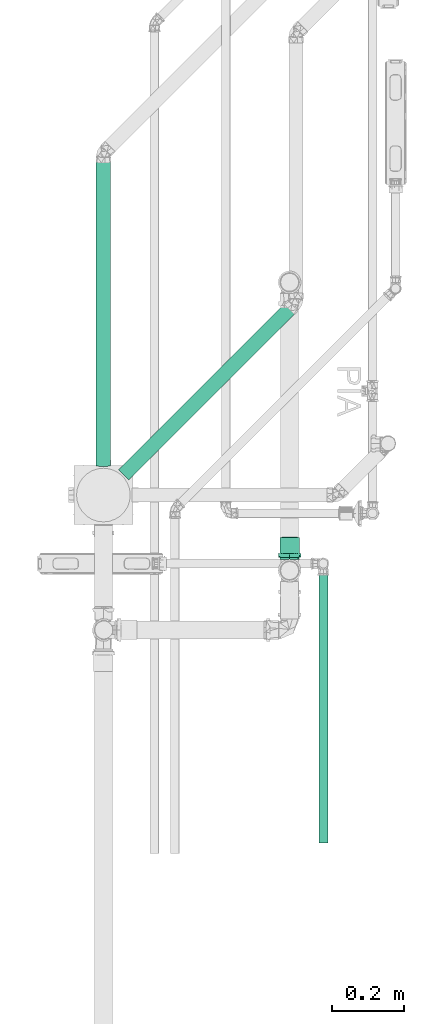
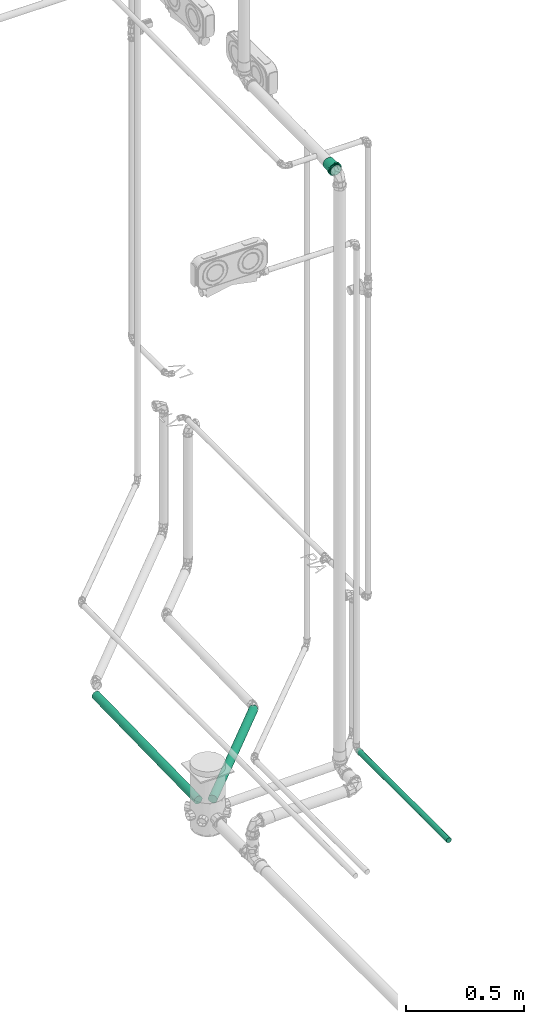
# One storey, part 53 of 589: 3 flow segments, 1 flow fitting.
"""IFC2X3 building model written with IfcOpenShell, lengths in millimetres."""

from ifc_helpers import new_model, entity, si_unit, converted_unit, derived_unit, direction, frame, frame_2d, origin, place, context, subcontext, project, spatial, circle, extrude, faceted_brep, source, transform, mapped, material, type_object, type_shapes, element, save


model = new_model("IFC2X3")

# Units and contexts
model_context = context("Model", 3, precision=0.01, world=origin(), true_north=direction((6.123031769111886e-17, 1.0)))
body_context = subcontext(model_context, "Body", "Model", "MODEL_VIEW")
ifc_project = project(units=[si_unit("LENGTHUNIT", "METRE", prefix="MILLI"), si_unit("AREAUNIT", "SQUARE_METRE"), si_unit("VOLUMEUNIT", "CUBIC_METRE"), converted_unit("PLANEANGLEUNIT", "DEGREE", entity("IfcRatioMeasure", 0.017453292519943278), si_unit("PLANEANGLEUNIT", "RADIAN"), dimensions=[0, 0, 0, 0, 0, 0, 0]), si_unit("MASSUNIT", "GRAM", prefix="KILO"), derived_unit("MASSDENSITYUNIT", [(si_unit("MASSUNIT", "GRAM", prefix="KILO"), 1), (si_unit("LENGTHUNIT", "METRE"), -3)]), derived_unit("IONCONCENTRATIONUNIT", [(si_unit("MASSUNIT", "GRAM", prefix="KILO"), 1), (si_unit("LENGTHUNIT", "METRE"), -3)]), derived_unit("MOMENTOFINERTIAUNIT", [(si_unit("LENGTHUNIT", "METRE"), 4)]), si_unit("TIMEUNIT", "SECOND"), si_unit("FREQUENCYUNIT", "HERTZ"), si_unit("THERMODYNAMICTEMPERATUREUNIT", "DEGREE_CELSIUS"), derived_unit("THERMALTRANSMITTANCEUNIT", [(si_unit("MASSUNIT", "GRAM", prefix="KILO"), 1), (si_unit("THERMODYNAMICTEMPERATUREUNIT", "KELVIN"), -1), (si_unit("TIMEUNIT", "SECOND"), -3)]), derived_unit("THERMALCONDUCTANCEUNIT", [(si_unit("MASSUNIT", "GRAM", prefix="KILO"), 1), (si_unit("THERMODYNAMICTEMPERATUREUNIT", "KELVIN"), -1), (si_unit("TIMEUNIT", "SECOND"), -3), (si_unit("LENGTHUNIT", "METRE"), 1)]), derived_unit("VOLUMETRICFLOWRATEUNIT", [(si_unit("LENGTHUNIT", "METRE"), 3), (si_unit("TIMEUNIT", "SECOND"), -1)]), derived_unit("MASSFLOWRATEUNIT", [(si_unit("MASSUNIT", "GRAM", prefix="KILO"), 1), (si_unit("TIMEUNIT", "SECOND"), -1)]), derived_unit("ROTATIONALFREQUENCYUNIT", [(si_unit("TIMEUNIT", "SECOND"), -1)]), si_unit("ELECTRICCURRENTUNIT", "AMPERE"), si_unit("ELECTRICVOLTAGEUNIT", "VOLT"), si_unit("POWERUNIT", "WATT"), si_unit("FORCEUNIT", "NEWTON", prefix="KILO"), si_unit("ILLUMINANCEUNIT", "LUX"), si_unit("LUMINOUSFLUXUNIT", "LUMEN"), si_unit("LUMINOUSINTENSITYUNIT", "CANDELA"), derived_unit("USERDEFINED", [(si_unit("MASSUNIT", "GRAM", prefix="KILO"), -1), (si_unit("LENGTHUNIT", "METRE"), -2), (si_unit("TIMEUNIT", "SECOND"), 3), (si_unit("LUMINOUSFLUXUNIT", "LUMEN"), 1)]), derived_unit("USERDEFINED", [(si_unit("MASSUNIT", "GRAM", prefix="KILO"), 1), (si_unit("TIMEUNIT", "SECOND"), -3), (si_unit("LENGTHUNIT", "METRE"), 3), (si_unit("ELECTRICCURRENTUNIT", "AMPERE"), -2)]), derived_unit("SOUNDPOWERUNIT", [(si_unit("MASSUNIT", "GRAM", prefix="KILO"), 1), (si_unit("TIMEUNIT", "SECOND"), -3), (si_unit("LENGTHUNIT", "METRE"), 2)]), derived_unit("SOUNDPRESSUREUNIT", [(si_unit("MASSUNIT", "GRAM", prefix="KILO"), 1), (si_unit("LENGTHUNIT", "METRE"), -1), (si_unit("TIMEUNIT", "SECOND"), -2)]), derived_unit("LINEARVELOCITYUNIT", [(si_unit("LENGTHUNIT", "METRE"), 1), (si_unit("TIMEUNIT", "SECOND"), -1)]), si_unit("PRESSUREUNIT", "PASCAL"), derived_unit("USERDEFINED", [(si_unit("MASSUNIT", "GRAM", prefix="KILO"), 1), (si_unit("LENGTHUNIT", "METRE"), -2), (si_unit("TIMEUNIT", "SECOND"), -2)]), derived_unit("LINEARFORCEUNIT", [(si_unit("MASSUNIT", "GRAM", prefix="KILO"), 1), (si_unit("TIMEUNIT", "SECOND"), -2)]), derived_unit("PLANARFORCEUNIT", [(si_unit("MASSUNIT", "GRAM", prefix="KILO"), 1), (si_unit("LENGTHUNIT", "METRE"), -1), (si_unit("TIMEUNIT", "SECOND"), -2)]), derived_unit("SPECIFICHEATCAPACITYUNIT", [(si_unit("THERMODYNAMICTEMPERATUREUNIT", "KELVIN"), -1), (si_unit("LENGTHUNIT", "METRE"), 2), (si_unit("TIMEUNIT", "SECOND"), -2)]), derived_unit("HEATINGVALUEUNIT", [(si_unit("LENGTHUNIT", "METRE"), 2), (si_unit("TIMEUNIT", "SECOND"), -2)]), derived_unit("VAPORPERMEABILITYUNIT", [(si_unit("LENGTHUNIT", "METRE"), -1), (si_unit("TIMEUNIT", "SECOND"), 1)]), derived_unit("DYNAMICVISCOSITYUNIT", [(si_unit("MASSUNIT", "GRAM", prefix="KILO"), 1), (si_unit("TIMEUNIT", "SECOND"), -1), (si_unit("LENGTHUNIT", "METRE"), -1)]), derived_unit("THERMALEXPANSIONCOEFFICIENTUNIT", [(si_unit("THERMODYNAMICTEMPERATUREUNIT", "KELVIN"), -1)]), derived_unit("MODULUSOFELASTICITYUNIT", [(si_unit("MASSUNIT", "GRAM", prefix="KILO"), 1), (si_unit("LENGTHUNIT", "METRE"), -1), (si_unit("TIMEUNIT", "SECOND"), -2)]), derived_unit("ISOTHERMALMOISTURECAPACITYUNIT", [(si_unit("LENGTHUNIT", "METRE"), 3), (si_unit("MASSUNIT", "GRAM", prefix="KILO"), -1)]), derived_unit("MOISTUREDIFFUSIVITYUNIT", [(si_unit("TIMEUNIT", "SECOND"), -1), (si_unit("LENGTHUNIT", "METRE"), 2)])], contexts=[model_context])

# Site, building, storey
site_placement = place(None, origin())
site = spatial("IfcSite", under=ifc_project, at=site_placement, Name="Default", CompositionType="ELEMENT")
building_placement = place(site_placement, origin())
building = spatial("IfcBuilding", under=site, at=building_placement, CompositionType="ELEMENT")
storey_placement = place(building_placement, frame((0.0, 0.0, 100.0)))
storey = spatial("IfcBuildingStorey", under=building, at=storey_placement, Name="TÉRREO", CompositionType="ELEMENT", Elevation=100.0)

# Flow segments
pipe_segment_type_1 = type_object("IfcPipeSegmentType", Name="Tipos de tubos:PVC Esgoto Série Normal", PredefinedType="NOTDEFINED")
flow_segment_1_placement = place(storey_placement, origin())
element("IfcFlowSegment", 1, at=flow_segment_1_placement, inside=storey, type_object=pipe_segment_type_1, Name="Tipos de tubos:PVC Esgoto Série Normal", ObjectType="Tipos de tubos:PVC Esgoto Série Normal", context=body_context, shape_type="SweptSolid", body=[
    extrude(circle(Radius=20.0, at=frame_2d((0.0, -3.383283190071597e-14), x_axis=(1.0, 0.0))), frame((-353.827989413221, -7640.112350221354, -252.9347498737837), z_axis=(0.7069654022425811, 0.7069654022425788, 0.019996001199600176), x_axis=(0.7071067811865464, -0.7071067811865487, 0.0)), (0.0, 0.0, 1.0), 669.0448221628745),
])
flow_segment_2_placement = place(storey_placement, origin())
element("IfcFlowSegment", 2, at=flow_segment_2_placement, inside=storey, type_object=pipe_segment_type_1, Name="Tipos de tubos:PVC Esgoto Série Normal", ObjectType="Tipos de tubos:PVC Esgoto Série Normal", context=body_context, shape_type="SweptSolid", body=[
    extrude(circle(Radius=20.0, at=frame_2d((0.0, -3.383283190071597e-14), x_axis=(1.0, 0.0))), frame((-410.3258212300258, -7615.843921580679, -252.93474987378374), z_axis=(0.0, 0.999800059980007, 0.01999600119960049), x_axis=(1.0, 0.0, 0.0)), (0.0, 0.0, 1.0), 862.6973783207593),
])
pipe_segment_type_2 = type_object("IfcPipeSegmentType", Name="Tipos de tubos:PVC Marrom Soldável", PredefinedType="NOTDEFINED")
flow_segment_3_placement = place(storey_placement, origin())
element("IfcFlowSegment", 3, at=flow_segment_3_placement, inside=storey, type_object=pipe_segment_type_2, Name="Tipos de tubos:PVC Marrom Soldável", ObjectType="Tipos de tubos:PVC Marrom Soldável", context=body_context, shape_type="SweptSolid", body=[
    extrude(circle(Radius=12.5, at=frame_2d((-4.222259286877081e-20, -9.417920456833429e-08), x_axis=(1.0, 0.0))), frame((203.72928595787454, -8667.861356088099, -37.35824808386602), z_axis=(-1.8287699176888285e-07, 1.0, 0.0), x_axis=(-1.0, -1.8287699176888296e-07, 0.0)), (0.0, 0.0, 1.0), 764.6001103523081),
])

# Flow fitting
ifc_material = material(Name="PVC Série Normal")
pipe_fitting_type = type_object("IfcPipeFittingType", Name="PVC Esgoto_Luva Simples para Conexão_Rodrigo MEP:Standard", PredefinedType="NOTDEFINED", material=ifc_material)
shared_shape = source(origin(), body_context, "Body", "Brep", [
    faceted_brep([(16.599999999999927, 15.900000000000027, -27.53960784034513), (16.599999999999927, 22.485995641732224, -22.485995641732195), (16.599999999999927, 13.599999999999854, -23.555890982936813), (16.599999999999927, 7.039878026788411, -26.273182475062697), (16.599999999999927, 8.2304456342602, -30.71644127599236), (16.599999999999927, 19.233304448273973, -19.233304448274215), (16.599999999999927, 27.539607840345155, -15.899999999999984), (16.599999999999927, 23.55589098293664, -13.600000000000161), (16.599999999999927, 26.273182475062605, -7.03987802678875), (16.599999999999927, 30.716441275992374, -8.230445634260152), (16.599999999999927, 27.2, 0.0), (16.599999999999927, 31.8, 0.0), (16.599999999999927, 26.273182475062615, 7.0398780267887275), (16.599999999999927, 30.71644127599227, 8.23044563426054), (16.599999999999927, 23.555890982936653, 13.60000000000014), (16.599999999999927, 27.539607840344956, 15.900000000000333), (16.599999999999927, 19.233304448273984, 19.2333044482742), (16.599999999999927, 22.485995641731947, 22.48599564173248), (16.599999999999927, 13.599999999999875, 23.555890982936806), (16.599999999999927, 15.899999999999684, 27.53960784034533), (16.599999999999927, 7.039878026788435, 26.27318247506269), (16.599999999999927, 8.230445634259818, 30.716441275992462), (16.599999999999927, 0.0, 27.2), (16.599999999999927, 0.0, 31.8), (16.599999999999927, -7.039878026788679, 26.273182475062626), (16.599999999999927, -8.230445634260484, 30.716441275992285), (16.599999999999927, -13.600000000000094, 23.555890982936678), (16.599999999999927, -15.900000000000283, 27.53960784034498), (16.599999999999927, -19.23330444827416, 19.233304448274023), (16.599999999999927, -22.485995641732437, 22.48599564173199), (16.599999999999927, -23.55589098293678, 13.59999999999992), (16.599999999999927, -27.539607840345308, 15.899999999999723), (16.599999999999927, -30.71644127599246, 8.230445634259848), (16.599999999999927, -26.273182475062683, 7.039878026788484), (16.599999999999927, -31.8, 0.0), (16.599999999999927, -27.2, 0.0), (16.599999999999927, -30.71644127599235, -8.23044563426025), (16.599999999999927, -26.273182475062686, -7.03987802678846), (16.599999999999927, -27.53960784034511, -15.90000000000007), (16.599999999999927, -23.55589098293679, -13.599999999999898), (16.599999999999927, -22.485995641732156, -22.485995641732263), (16.599999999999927, -19.233304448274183, -19.233304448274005), (16.599999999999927, -15.899999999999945, -27.53960784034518), (16.599999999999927, -13.600000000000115, -23.555890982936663), (16.599999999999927, -8.230445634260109, -30.716441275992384), (16.599999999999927, -7.039878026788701, -26.273182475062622), (16.599999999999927, 0.0, -31.8), (16.599999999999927, 0.0, -27.2), (6.500000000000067, -10.708108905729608, 29.429219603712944), (6.500000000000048, -24.359073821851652, 20.44200387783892), (6.500000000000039, -27.120498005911, 15.6595386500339), (6.50000000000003, -29.881922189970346, 10.877073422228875), (6.500000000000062, -15.89769721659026, 27.540937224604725), (6.500000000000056, -20.128385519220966, 23.991470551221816), (6.50000000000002, -30.840961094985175, 5.438536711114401), (6.5000000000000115, -31.8, 0.0), (6.50000000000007, -5.518520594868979, 31.317501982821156), (6.500000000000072, 5.526376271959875, 31.316116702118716), (6.50000000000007, 0.00392783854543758, 31.316809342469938), (6.500000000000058, 20.134403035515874, 23.986420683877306), (6.500000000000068, 10.715490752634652, 29.42653259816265), (6.500000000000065, 15.904605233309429, 27.536948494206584), (6.500000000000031, 29.8846497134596, 10.869577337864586), (6.500000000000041, 27.12442527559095, 15.652735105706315), (6.5000000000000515, 24.364200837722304, 20.435892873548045), (6.5000000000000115, 31.8, 0.0), (6.499999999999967, 24.364200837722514, -20.435892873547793), (6.499999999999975, 27.12442527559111, -15.652735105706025), (6.499999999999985, 29.884649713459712, -10.869577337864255), (6.4999999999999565, 15.904605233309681, -27.53694849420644), (6.499999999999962, 20.134403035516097, -23.986420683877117), (6.499999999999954, 10.715490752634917, -29.42653259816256), (6.499999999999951, 5.526376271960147, -31.31611670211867), (6.499999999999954, -5.518520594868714, -31.317501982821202), (6.499999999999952, 0.003927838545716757, -31.316809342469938), (6.499999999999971, -20.128385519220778, -23.99147055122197), (6.499999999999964, -15.897697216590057, -27.54093722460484), (6.499999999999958, -10.70810890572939, -29.42921960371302), (6.499999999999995, -29.881922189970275, -10.877073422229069), (6.499999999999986, -27.12049800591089, -15.659538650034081), (6.499999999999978, -24.359073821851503, -20.442003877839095), (6.500000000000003, -30.840961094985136, -5.438536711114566), (6.499999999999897, -30.696173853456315, -6.259599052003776), (62.0, 13.600000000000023, -23.55589098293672), (62.0, 19.233304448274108, -19.23330444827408), (62.0, 12.499999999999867, -21.650635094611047), (62.0, 6.470476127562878, -24.14814565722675), (62.0, 7.039878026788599, -26.273182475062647), (62.0, 17.677669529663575, -17.677669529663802), (62.0, 23.55589098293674, -13.599999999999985), (62.0, 21.65063509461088, -12.50000000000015), (62.0, 24.148145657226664, -6.470476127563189), (62.0, 26.27318247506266, -7.039878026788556), (62.0, 25.0, 0.0), (62.0, 27.2, 0.0), (62.0, 24.148145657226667, 6.4704761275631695), (62.0, 26.273182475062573, 7.03987802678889), (62.0, 21.650635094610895, 12.500000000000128), (62.0, 23.555890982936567, 13.600000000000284), (62.0, 17.67766952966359, 17.67766952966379), (62.0, 19.233304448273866, 19.233304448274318), (62.0, 12.499999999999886, 21.650635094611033), (62.0, 13.59999999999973, 23.55589098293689), (62.0, 6.4704761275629, 24.14814565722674), (62.0, 7.039878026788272, 26.273182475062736), (62.0, 0.0, 25.0), (62.0, 0.0, 27.2), (62.0, -6.470476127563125, 24.148145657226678), (62.0, -7.039878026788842, 26.273182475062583), (62.0, -12.500000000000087, 21.650635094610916), (62.0, -13.600000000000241, 23.555890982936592), (62.0, -17.677669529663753, 17.677669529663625), (62.0, -19.233304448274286, 19.2333044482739), (62.0, -21.65063509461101, 12.499999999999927), (62.0, -23.555890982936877, 13.599999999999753), (62.0, -26.27318247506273, 7.039878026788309), (62.0, -24.14814565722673, 6.470476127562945), (62.0, -27.2, 0.0), (62.0, -25.0, 0.0), (62.0, -26.27318247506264, -7.0398780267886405), (62.0, -24.148145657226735, -6.470476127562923), (62.0, -23.5558909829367, -13.600000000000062), (62.0, -21.650635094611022, -12.499999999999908), (62.0, -19.233304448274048, -19.233304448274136), (62.0, -17.67766952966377, -17.677669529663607), (62.0, -13.599999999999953, -23.555890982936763), (62.0, -12.500000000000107, -21.650635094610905), (62.0, -7.039878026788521, -26.27318247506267), (62.0, -6.470476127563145, -24.148145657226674), (62.0, 0.0, -27.2), (62.0, 0.0, -25.0), (0.0, 12.499999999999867, -21.650635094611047), (0.0, 19.233304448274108, -19.23330444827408), (0.0, 13.600000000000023, -23.55589098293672), (0.0, 6.470476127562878, -24.14814565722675), (0.0, 17.677669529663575, -17.677669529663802), (0.0, 23.55589098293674, -13.599999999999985), (0.0, 21.65063509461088, -12.50000000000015), (0.0, 24.148145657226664, -6.470476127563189), (0.0, 26.27318247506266, -7.039878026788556), (0.0, 25.0, 0.0), (0.0, 27.2, 0.0), (0.0, 24.148145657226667, 6.4704761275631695), (0.0, 26.273182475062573, 7.03987802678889), (0.0, 21.650635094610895, 12.500000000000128), (0.0, 23.555890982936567, 13.600000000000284), (0.0, 17.67766952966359, 17.67766952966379), (0.0, 19.233304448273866, 19.233304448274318), (0.0, 12.499999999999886, 21.650635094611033), (0.0, 13.59999999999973, 23.55589098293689), (0.0, 6.4704761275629, 24.14814565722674), (0.0, 7.039878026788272, 26.273182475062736), (0.0, 0.0, 25.0), (0.0, 0.0, 27.2), (0.0, -6.470476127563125, 24.148145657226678), (0.0, -7.039878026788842, 26.273182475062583), (0.0, -12.500000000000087, 21.650635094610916), (0.0, -13.600000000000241, 23.555890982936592), (0.0, -17.677669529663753, 17.677669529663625), (0.0, -19.233304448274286, 19.2333044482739), (0.0, -21.65063509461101, 12.499999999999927), (0.0, -23.555890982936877, 13.599999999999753), (0.0, -26.27318247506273, 7.039878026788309), (0.0, -24.14814565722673, 6.470476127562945), (0.0, -27.2, 0.0), (0.0, -25.0, 0.0), (0.0, -26.27318247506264, -7.0398780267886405), (0.0, -24.148145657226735, -6.470476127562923), (0.0, -23.5558909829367, -13.600000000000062), (0.0, -21.650635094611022, -12.499999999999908), (0.0, -19.233304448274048, -19.233304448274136), (0.0, -17.67766952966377, -17.677669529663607), (0.0, -13.599999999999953, -23.555890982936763), (0.0, -12.500000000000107, -21.650635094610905), (0.0, -7.039878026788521, -26.27318247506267), (0.0, -6.470476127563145, -24.148145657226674), (0.0, 0.0, -27.2), (0.0, 0.0, -25.0), (0.0, 7.039878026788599, -26.273182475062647), (5.300000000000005, -26.37968999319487, 4.651830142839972), (5.299999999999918, -26.25584678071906, 5.354122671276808), (5.300000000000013, -25.559379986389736, 9.303660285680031), (5.300000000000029, -20.835434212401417, 17.48498444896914), (5.300000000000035, -17.216732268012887, 20.521006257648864), (5.300000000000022, -23.19740709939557, 13.394322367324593), (5.3000000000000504, -4.720244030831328, 26.787297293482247), (5.300000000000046, -9.15913717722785, 25.172162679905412), (5.299999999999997, -27.2, 0.0), (5.300000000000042, -13.598030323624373, 23.557028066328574), (5.300000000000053, 9.165451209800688, 25.169864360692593), (5.300000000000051, 13.603939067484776, 23.55361632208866), (5.300000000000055, 4.7269633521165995, 26.786112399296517), (5.300000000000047, 17.221879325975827, 20.516686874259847), (5.300000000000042, 20.839819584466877, 17.479757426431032), (5.3000000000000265, 25.56171296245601, 9.297248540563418), (5.299999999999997, 27.2, 0.0), (5.3000000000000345, 23.20076627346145, 13.388502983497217), (5.300000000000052, 0.003359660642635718, 26.786704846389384), (5.299999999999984, 25.56171296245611, -9.29724854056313), (5.299999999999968, 20.839819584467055, -17.47975742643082), (5.2999999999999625, 17.22187932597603, -20.516686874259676), (5.299999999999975, 23.200766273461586, -13.388502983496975), (5.299999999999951, 4.726963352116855, -26.78611239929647), (5.2999999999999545, 9.165451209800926, -25.169864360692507), (5.299999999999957, 13.603939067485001, -23.553616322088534), (5.29999999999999, -26.379689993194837, -4.651830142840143), (5.299999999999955, -9.159137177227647, -25.17216267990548), (5.299999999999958, -13.5980303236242, -23.55702806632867), (5.299999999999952, -4.720244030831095, -26.787297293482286), (5.299999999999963, -17.216732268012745, -20.52100625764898), (5.299999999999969, -20.83543421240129, -17.484984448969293), (5.299999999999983, -25.559379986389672, -9.303660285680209), (5.299999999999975, -23.197407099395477, -13.394322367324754), (5.299999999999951, 0.003359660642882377, -26.78670484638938), (39.0, -25.0, 0.0), (39.0, 25.0, 0.0)], [[[0, 1, 2]], [[0, 2, 3]], [[3, 4, 0]], [[2, 1, 5]], [[6, 5, 1]], [[7, 5, 6]], [[8, 7, 6]], [[8, 6, 9]], [[8, 9, 10]], [[10, 9, 11]], [[12, 10, 11]], [[12, 11, 13]], [[14, 12, 13]], [[14, 13, 15]], [[16, 14, 15]], [[15, 17, 16]], [[17, 18, 16]], [[17, 19, 18]], [[18, 19, 20]], [[21, 20, 19]], [[20, 21, 22]], [[22, 21, 23]], [[22, 23, 24]], [[24, 23, 25]], [[24, 25, 26]], [[27, 26, 25]], [[27, 28, 26]], [[28, 27, 29]], [[30, 28, 29]], [[31, 30, 29]], [[32, 30, 31]], [[33, 30, 32]], [[33, 32, 34]], [[35, 33, 34]], [[36, 35, 34]], [[36, 37, 35]], [[37, 36, 38]], [[39, 37, 38]], [[39, 38, 40]], [[39, 40, 41]], [[40, 42, 41]], [[41, 42, 43]], [[43, 42, 44]], [[44, 45, 43]], [[46, 45, 44]], [[4, 47, 46]], [[46, 47, 45]], [[4, 3, 47]], [[48, 27, 25]], [[31, 29, 49]], [[31, 49, 50, 51]], [[52, 53, 27]], [[32, 51, 54]], [[54, 55, 34]], [[54, 34, 32]], [[25, 56, 48]], [[49, 29, 53]], [[23, 57, 58, 56]], [[59, 19, 17]], [[27, 53, 29]], [[48, 52, 27]], [[31, 51, 32]], [[57, 23, 21]], [[60, 19, 61]], [[15, 62, 63, 64]], [[19, 60, 21]], [[15, 13, 62]], [[17, 64, 59]], [[57, 21, 60]], [[23, 56, 25]], [[15, 64, 17]], [[13, 65, 62]], [[13, 11, 65]], [[59, 61, 19]], [[65, 11, 9]], [[6, 1, 66]], [[6, 66, 67, 68]], [[69, 70, 0]], [[68, 65, 9]], [[71, 69, 0]], [[71, 0, 4]], [[4, 72, 71]], [[66, 1, 70]], [[46, 73, 74, 72]], [[75, 76, 42]], [[0, 70, 1]], [[75, 42, 40]], [[6, 68, 9]], [[73, 46, 44]], [[77, 42, 76]], [[38, 78, 79, 80]], [[42, 77, 44]], [[38, 36, 78]], [[40, 80, 75]], [[73, 44, 77]], [[46, 72, 4]], [[38, 80, 40]], [[36, 81, 82, 78]], [[55, 81, 34]], [[34, 81, 36]], [[83, 84, 85]], [[83, 85, 86]], [[86, 87, 83]], [[85, 84, 88]], [[89, 88, 84]], [[88, 89, 90]], [[90, 89, 91]], [[92, 91, 89]], [[92, 93, 91]], [[93, 92, 94]], [[95, 93, 94]], [[94, 96, 95]], [[95, 96, 97]], [[98, 97, 96]], [[97, 98, 99]], [[99, 98, 100]], [[101, 99, 100]], [[100, 102, 101]], [[101, 102, 103]], [[104, 103, 102]], [[103, 104, 105]], [[105, 104, 106]], [[105, 106, 107]], [[107, 106, 108]], [[107, 108, 109]], [[110, 109, 108]], [[110, 111, 109]], [[111, 110, 112]], [[112, 113, 111]], [[114, 113, 112]], [[113, 114, 115]], [[115, 116, 113]], [[117, 116, 115]], [[117, 118, 116]], [[119, 118, 117]], [[119, 120, 118]], [[120, 119, 121]], [[121, 122, 120]], [[122, 121, 123]], [[122, 123, 124]], [[123, 125, 124]], [[124, 125, 126]], [[126, 125, 127]], [[127, 128, 126]], [[129, 128, 127]], [[87, 130, 129]], [[129, 130, 128]], [[87, 86, 130]], [[131, 132, 133]], [[134, 131, 133]], [[135, 132, 131]], [[132, 135, 136]], [[137, 136, 135]], [[138, 136, 137]], [[136, 138, 139]], [[138, 140, 139]], [[141, 139, 140]], [[141, 140, 142]], [[142, 143, 141]], [[144, 143, 142]], [[143, 144, 145]], [[146, 145, 144]], [[147, 145, 146]], [[147, 146, 148]], [[148, 149, 147]], [[150, 149, 148]], [[149, 150, 151]], [[152, 151, 150]], [[153, 151, 152]], [[154, 153, 152]], [[155, 153, 154]], [[156, 155, 154]], [[155, 156, 157]], [[156, 158, 157]], [[159, 157, 158]], [[158, 160, 159]], [[159, 160, 161]], [[162, 161, 160]], [[160, 163, 162]], [[162, 163, 164]], [[163, 165, 164]], [[164, 165, 166]], [[165, 167, 166]], [[168, 166, 167]], [[167, 169, 168]], [[170, 168, 169]], [[171, 170, 169]], [[171, 172, 170]], [[173, 172, 171]], [[174, 172, 173]], [[173, 175, 174]], [[174, 175, 176]], [[175, 177, 176]], [[177, 134, 178]], [[176, 177, 178]], [[133, 178, 134]], [[162, 179, 180, 181]], [[159, 182, 183]], [[182, 161, 181, 184]], [[185, 155, 186]], [[161, 162, 181]], [[187, 179, 164]], [[183, 188, 157]], [[183, 157, 159]], [[161, 182, 159]], [[189, 190, 149]], [[189, 149, 151]], [[157, 188, 186]], [[157, 186, 155]], [[153, 155, 185]], [[164, 179, 162]], [[151, 191, 189]], [[147, 192, 193]], [[143, 194, 195]], [[194, 145, 193, 196]], [[143, 195, 141]], [[10, 12, 96, 94]], [[149, 192, 147]], [[153, 185, 197, 191]], [[153, 191, 151]], [[145, 147, 193]], [[190, 192, 149]], [[145, 194, 143]], [[139, 195, 198]], [[132, 199, 200]], [[199, 136, 198, 201]], [[202, 178, 203]], [[136, 139, 198]], [[139, 141, 195]], [[92, 8, 10, 94]], [[133, 203, 178]], [[200, 204, 133]], [[136, 199, 132]], [[205, 164, 166]], [[206, 207, 172]], [[133, 204, 203]], [[206, 172, 174]], [[176, 178, 202]], [[200, 133, 132]], [[174, 208, 206]], [[170, 209, 210]], [[166, 211, 205]], [[211, 168, 210, 212]], [[168, 211, 166]], [[172, 209, 170]], [[176, 202, 213, 208]], [[176, 208, 174]], [[168, 170, 210]], [[207, 209, 172]], [[205, 187, 164]], [[116, 118, 214, 165, 163]], [[156, 109, 111, 158]], [[111, 113, 160, 158]], [[113, 116, 163, 160]], [[107, 109, 156, 154]], [[154, 152, 105, 107]], [[103, 105, 152, 150]], [[103, 150, 148, 101]], [[142, 95, 97, 144]], [[97, 99, 146, 144]], [[99, 101, 148, 146]], [[93, 95, 142, 140, 215]], [[215, 140, 138, 91, 93]], [[135, 131, 85, 88]], [[90, 91, 138, 137]], [[90, 137, 135, 88]], [[86, 85, 131, 134]], [[134, 177, 130, 86]], [[128, 130, 177, 175]], [[128, 175, 173, 126]], [[167, 120, 122, 169]], [[122, 124, 171, 169]], [[124, 126, 173, 171]], [[118, 120, 167, 165, 214]], [[211, 78, 82, 81, 55, 187, 205]], [[79, 78, 211, 212, 210, 80]], [[75, 80, 210, 209, 207, 76]], [[207, 206, 208, 73, 77, 76]], [[213, 202, 72, 74, 73, 208]], [[203, 204, 69, 71, 72, 202]], [[198, 195, 65, 68]], [[199, 201, 198, 68, 67, 66]], [[204, 200, 199, 66, 70, 69]], [[195, 194, 62, 65]], [[197, 185, 56, 58, 57, 191]], [[63, 62, 194, 196, 193, 64]], [[57, 60, 61, 190, 189, 191]], [[193, 192, 190, 61, 59, 64]], [[48, 56, 185, 186, 188, 52]], [[187, 55, 54, 51, 181, 180, 179]], [[182, 184, 181, 51, 50, 49]], [[188, 183, 182, 49, 53, 52]], [[30, 33, 115, 114]], [[117, 115, 33, 35]], [[26, 28, 112, 110]], [[114, 112, 28, 30]], [[24, 26, 110, 108]], [[108, 106, 22, 24]], [[18, 20, 104, 102]], [[100, 16, 18, 102]], [[12, 14, 98, 96]], [[100, 98, 14, 16]], [[104, 20, 22, 106]], [[89, 7, 8, 92]], [[83, 87, 3, 2]], [[7, 89, 84, 5]], [[83, 2, 5, 84]], [[87, 129, 47, 3]], [[43, 45, 127, 125]], [[123, 41, 43, 125]], [[37, 39, 121, 119]], [[123, 121, 39, 41]], [[35, 37, 119, 117]], [[127, 45, 47, 129]]]),
])
type_shapes(pipe_fitting_type, [shared_shape])
flow_fitting_placement = place(storey_placement, frame((109.67377091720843, -7876.576600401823, 2968.3093975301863), z_axis=(-1.0, 0.0, 0.0), x_axis=(0.0, 0.9999500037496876, 0.009999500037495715)))
element("IfcFlowFitting", 4, at=flow_fitting_placement, inside=storey, type_object=pipe_fitting_type, material=ifc_material, Name="PVC Esgoto_Luva Simples para Conexão_Rodrigo MEP:Standard", ObjectType="PVC Esgoto_Luva Simples para Conexão_Rodrigo MEP:Standard", context=body_context, shape_type="MappedRepresentation", body=[
    mapped(shared_shape, transform((0.0, 0.0, 0.0), scale=1.0)),
])

save(model, "model.ifc")
